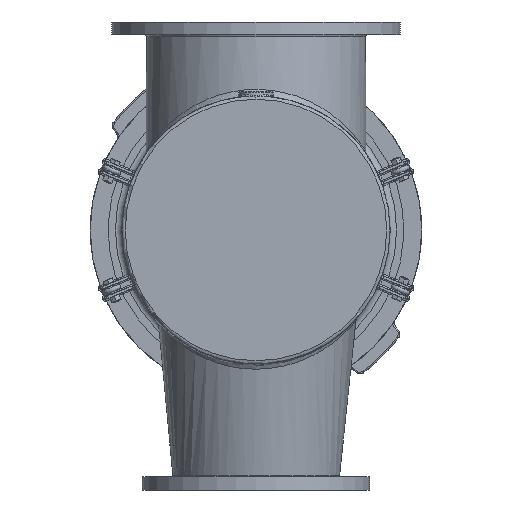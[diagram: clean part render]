
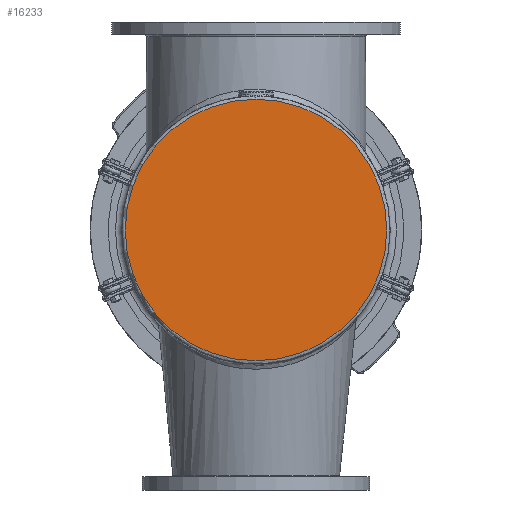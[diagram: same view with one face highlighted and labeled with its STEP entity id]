
A CAD part, front view. The second image highlights one B-rep face of the part: STEP entity #16233.
In plain terms, the highlighted planar face has unit normal (0, -1, 0).
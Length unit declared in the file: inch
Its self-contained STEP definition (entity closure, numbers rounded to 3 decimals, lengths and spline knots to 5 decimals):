
#2368=PLANE('',#17315);
#3736=FACE_OUTER_BOUND('',#4772,.T.);
#4772=EDGE_LOOP('',(#10881));
#6042=CIRCLE('',#17307,10.0625);
#7029=VERTEX_POINT('',#24715);
#8517=EDGE_CURVE('',#7029,#7029,#6042,.T.);
#10881=ORIENTED_EDGE('',*,*,#8517,.F.);
#16233=ADVANCED_FACE('',(#3736),#2368,.F.);
#17307=AXIS2_PLACEMENT_3D('',#24716,#19402,#19403);
#17315=AXIS2_PLACEMENT_3D('',#24727,#19418,#19419);
#19402=DIRECTION('center_axis',(0.,1.,0.));
#19403=DIRECTION('ref_axis',(1.,0.,0.));
#19418=DIRECTION('center_axis',(0.,1.,0.));
#19419=DIRECTION('ref_axis',(0.,0.,1.));
#24715=CARTESIAN_POINT('',(-10.0625,0.,0.));
#24716=CARTESIAN_POINT('Origin',(0.,0.,0.));
#24727=CARTESIAN_POINT('Origin',(0.,0.,0.));
